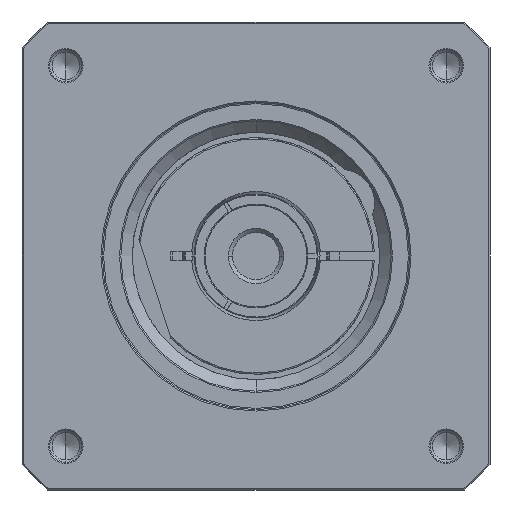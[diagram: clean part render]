
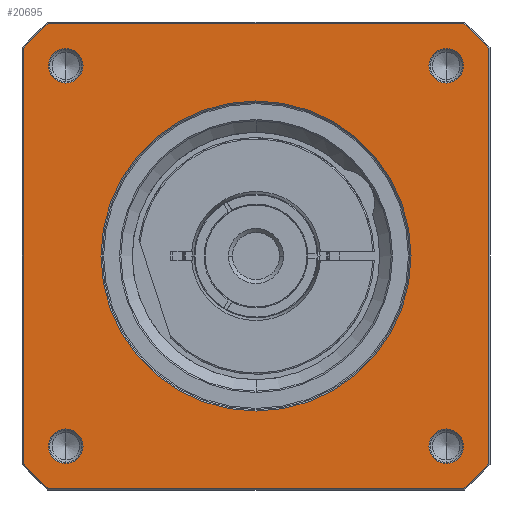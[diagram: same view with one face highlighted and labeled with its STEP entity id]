
A CAD part, left-side view. The second image highlights one B-rep face of the part: STEP entity #20695.
In plain terms, the highlighted planar face has unit normal (-1, 0, 0) as drawn and (0, 0, 1) by its records, which use the part's own axes.
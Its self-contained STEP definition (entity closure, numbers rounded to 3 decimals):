
#19446=CARTESIAN_POINT('',(0.,0.,
76.));
#19447=DIRECTION('',(0.,0.,-1.));
#19448=DIRECTION('',(0.,-1.,0.));
#19449=AXIS2_PLACEMENT_3D('',#19446,#19447,#19448);
#19451=CARTESIAN_POINT('',(0.,0.,
76.));
#19452=DIRECTION('',(0.,0.,-1.));
#19453=DIRECTION('',(0.,1.,0.));
#19454=AXIS2_PLACEMENT_3D('',#19451,#19452,#19453);
#19456=CARTESIAN_POINT('',(0.,0.,76.));
#19457=DIRECTION('',(0.,0.,1.));
#19458=DIRECTION('',(-0.746,-0.666,0.));
#19459=AXIS2_PLACEMENT_3D('',#19456,#19457,#19458);
#19471=DIRECTION('',(1.,0.,0.));
#19472=VECTOR('',#19471,154.58);
#19473=CARTESIAN_POINT('',(-77.29,-86.5,76.));
#19474=LINE('',#19473,#19472);
#19484=CARTESIAN_POINT('',(0.,0.,76.));
#19485=DIRECTION('',(0.,0.,1.));
#19486=DIRECTION('',(0.666,-0.746,0.));
#19487=AXIS2_PLACEMENT_3D('',#19484,#19485,#19486);
#19499=DIRECTION('',(0.,1.,0.));
#19500=VECTOR('',#19499,154.58);
#19501=CARTESIAN_POINT('',(86.5,-77.29,76.));
#19502=LINE('',#19501,#19500);
#19512=CARTESIAN_POINT('',(0.,0.,76.));
#19513=DIRECTION('',(0.,0.,1.));
#19514=DIRECTION('',(0.746,0.666,0.));
#19515=AXIS2_PLACEMENT_3D('',#19512,#19513,#19514);
#19527=DIRECTION('',(-1.,0.,0.));
#19528=VECTOR('',#19527,154.58);
#19529=CARTESIAN_POINT('',(77.29,86.5,76.));
#19530=LINE('',#19529,#19528);
#19535=CARTESIAN_POINT('',(0.,0.,76.));
#19536=DIRECTION('',(0.,0.,1.));
#19537=DIRECTION('',(-0.666,0.746,0.));
#19538=AXIS2_PLACEMENT_3D('',#19535,#19536,#19537);
#19555=DIRECTION('',(0.,-1.,0.));
#19556=VECTOR('',#19555,154.58);
#19557=CARTESIAN_POINT('',(-86.5,77.29,76.));
#19558=LINE('',#19557,#19556);
#19641=CARTESIAN_POINT('',(-70.711,70.711,76.));
#19642=DIRECTION('',(0.,0.,1.));
#19643=DIRECTION('',(-1.,0.,0.));
#19644=AXIS2_PLACEMENT_3D('',#19641,#19642,#19643);
#19659=CARTESIAN_POINT('',(-70.711,70.711,76.));
#19660=DIRECTION('',(0.,0.,1.));
#19661=DIRECTION('',(1.,0.,0.));
#19662=AXIS2_PLACEMENT_3D('',#19659,#19660,#19661);
#19695=CARTESIAN_POINT('',(70.711,70.711,76.));
#19696=DIRECTION('',(0.,0.,1.));
#19697=DIRECTION('',(-1.,0.,0.));
#19698=AXIS2_PLACEMENT_3D('',#19695,#19696,#19697);
#19713=CARTESIAN_POINT('',(70.711,70.711,76.));
#19714=DIRECTION('',(0.,0.,1.));
#19715=DIRECTION('',(1.,0.,0.));
#19716=AXIS2_PLACEMENT_3D('',#19713,#19714,#19715);
#19749=CARTESIAN_POINT('',(70.711,-70.711,76.));
#19750=DIRECTION('',(0.,0.,1.));
#19751=DIRECTION('',(-1.,0.,0.));
#19752=AXIS2_PLACEMENT_3D('',#19749,#19750,#19751);
#19767=CARTESIAN_POINT('',(70.711,-70.711,76.));
#19768=DIRECTION('',(0.,0.,1.));
#19769=DIRECTION('',(1.,0.,0.));
#19770=AXIS2_PLACEMENT_3D('',#19767,#19768,#19769);
#19803=CARTESIAN_POINT('',(-70.711,-70.711,76.));
#19804=DIRECTION('',(0.,0.,1.));
#19805=DIRECTION('',(-1.,0.,0.));
#19806=AXIS2_PLACEMENT_3D('',#19803,#19804,#19805);
#19821=CARTESIAN_POINT('',(-70.711,-70.711,76.));
#19822=DIRECTION('',(0.,0.,1.));
#19823=DIRECTION('',(1.,0.,0.));
#19824=AXIS2_PLACEMENT_3D('',#19821,#19822,#19823);
#19953=CARTESIAN_POINT('',(86.5,-77.29,76.));
#19954=CARTESIAN_POINT('',(86.5,77.29,76.));
#19955=VERTEX_POINT('',#19953);
#19956=VERTEX_POINT('',#19954);
#19961=CARTESIAN_POINT('',(77.29,-86.5,76.));
#19962=VERTEX_POINT('',#19961);
#19965=CARTESIAN_POINT('',(-77.29,-86.5,76.));
#19966=VERTEX_POINT('',#19965);
#19969=CARTESIAN_POINT('',(-86.5,-77.29,76.));
#19970=VERTEX_POINT('',#19969);
#19973=CARTESIAN_POINT('',(-86.5,77.29,76.));
#19974=VERTEX_POINT('',#19973);
#19977=CARTESIAN_POINT('',(-77.29,86.5,76.));
#19978=VERTEX_POINT('',#19977);
#19981=CARTESIAN_POINT('',(77.29,86.5,76.));
#19982=VERTEX_POINT('',#19981);
#19991=CARTESIAN_POINT('',(-77.111,70.711,76.));
#19992=CARTESIAN_POINT('',(-64.311,70.711,76.));
#19993=VERTEX_POINT('',#19991);
#19994=VERTEX_POINT('',#19992);
#20017=CARTESIAN_POINT('',(77.111,70.711,76.));
#20018=CARTESIAN_POINT('',(64.311,70.711,76.));
#20019=VERTEX_POINT('',#20017);
#20020=VERTEX_POINT('',#20018);
#20025=CARTESIAN_POINT('',(77.111,-70.711,76.));
#20026=CARTESIAN_POINT('',(64.311,-70.711,76.));
#20027=VERTEX_POINT('',#20025);
#20028=VERTEX_POINT('',#20026);
#20033=CARTESIAN_POINT('',(-64.311,-70.711,76.));
#20034=CARTESIAN_POINT('',(-77.111,-70.711,76.));
#20035=VERTEX_POINT('',#20033);
#20036=VERTEX_POINT('',#20034);
#20041=CARTESIAN_POINT('',(0.,-57.65,76.));
#20042=CARTESIAN_POINT('',(0.,57.65,
76.));
#20043=VERTEX_POINT('',#20041);
#20044=VERTEX_POINT('',#20042);
#20643=CARTESIAN_POINT('',(0.,0.,76.));
#20644=DIRECTION('',(0.,0.,1.));
#20645=DIRECTION('',(1.,0.,0.));
#20646=AXIS2_PLACEMENT_3D('',#20643,#20644,#20645);
#20647=PLANE('',#20646);
#20649=ORIENTED_EDGE('',*,*,#20648,.F.);
#20651=ORIENTED_EDGE('',*,*,#20650,.F.);
#20653=ORIENTED_EDGE('',*,*,#20652,.F.);
#20655=ORIENTED_EDGE('',*,*,#20654,.F.);
#20657=ORIENTED_EDGE('',*,*,#20656,.F.);
#20659=ORIENTED_EDGE('',*,*,#20658,.F.);
#20661=ORIENTED_EDGE('',*,*,#20660,.F.);
#20663=ORIENTED_EDGE('',*,*,#20662,.F.);
#20664=EDGE_LOOP('',(#20649,#20651,#20653,#20655,#20657,#20659,#20661,#20663));
#20665=FACE_OUTER_BOUND('',#20664,.F.);
#20666=ORIENTED_EDGE('',*,*,#20633,.F.);
#20668=ORIENTED_EDGE('',*,*,#20667,.F.);
#20669=EDGE_LOOP('',(#20666,#20668));
#20670=FACE_BOUND('',#20669,.F.);
#20672=ORIENTED_EDGE('',*,*,#20671,.T.);
#20674=ORIENTED_EDGE('',*,*,#20673,.T.);
#20675=EDGE_LOOP('',(#20672,#20674));
#20676=FACE_BOUND('',#20675,.F.);
#20678=ORIENTED_EDGE('',*,*,#20677,.T.);
#20680=ORIENTED_EDGE('',*,*,#20679,.T.);
#20681=EDGE_LOOP('',(#20678,#20680));
#20682=FACE_BOUND('',#20681,.F.);
#20684=ORIENTED_EDGE('',*,*,#20683,.T.);
#20686=ORIENTED_EDGE('',*,*,#20685,.T.);
#20687=EDGE_LOOP('',(#20684,#20686));
#20688=FACE_BOUND('',#20687,.F.);
#20690=ORIENTED_EDGE('',*,*,#20689,.T.);
#20692=ORIENTED_EDGE('',*,*,#20691,.T.);
#20693=EDGE_LOOP('',(#20690,#20692));
#20694=FACE_BOUND('',#20693,.F.);
#20695=ADVANCED_FACE('',(#20665,#20670,#20676,#20682,#20688,#20694),#20647,.T.);
#19450=CIRCLE('',#19449,57.65);
#19455=CIRCLE('',#19454,57.65);
#19460=CIRCLE('',#19459,116.);
#19488=CIRCLE('',#19487,116.);
#19516=CIRCLE('',#19515,116.);
#19539=CIRCLE('',#19538,116.);
#19645=CIRCLE('',#19644,6.4);
#19663=CIRCLE('',#19662,6.4);
#19699=CIRCLE('',#19698,6.4);
#19717=CIRCLE('',#19716,6.4);
#19753=CIRCLE('',#19752,6.4);
#19771=CIRCLE('',#19770,6.4);
#19807=CIRCLE('',#19806,6.4);
#19825=CIRCLE('',#19824,6.4);
#20633=EDGE_CURVE('',#20043,#20044,#19450,.T.);
#20648=EDGE_CURVE('',#19970,#19966,#19460,.T.);
#20650=EDGE_CURVE('',#19974,#19970,#19558,.T.);
#20652=EDGE_CURVE('',#19978,#19974,#19539,.T.);
#20654=EDGE_CURVE('',#19982,#19978,#19530,.T.);
#20656=EDGE_CURVE('',#19956,#19982,#19516,.T.);
#20658=EDGE_CURVE('',#19955,#19956,#19502,.T.);
#20660=EDGE_CURVE('',#19962,#19955,#19488,.T.);
#20662=EDGE_CURVE('',#19966,#19962,#19474,.T.);
#20667=EDGE_CURVE('',#20044,#20043,#19455,.T.);
#20671=EDGE_CURVE('',#19993,#19994,#19645,.T.);
#20673=EDGE_CURVE('',#19994,#19993,#19663,.T.);
#20677=EDGE_CURVE('',#20020,#20019,#19699,.T.);
#20679=EDGE_CURVE('',#20019,#20020,#19717,.T.);
#20683=EDGE_CURVE('',#20028,#20027,#19753,.T.);
#20685=EDGE_CURVE('',#20027,#20028,#19771,.T.);
#20689=EDGE_CURVE('',#20036,#20035,#19807,.T.);
#20691=EDGE_CURVE('',#20035,#20036,#19825,.T.);
